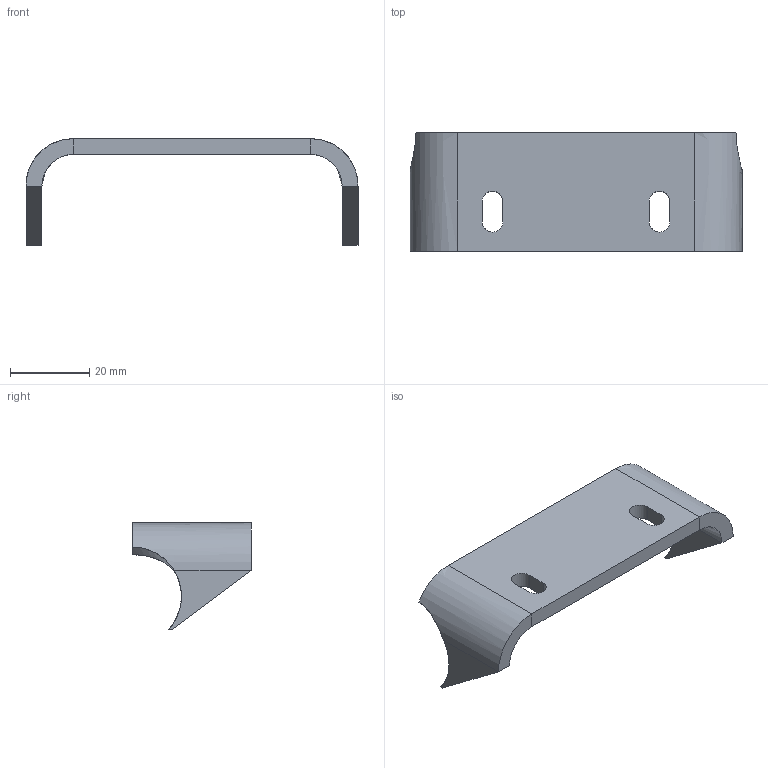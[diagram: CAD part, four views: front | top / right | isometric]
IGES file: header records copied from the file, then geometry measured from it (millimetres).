
Start section: START RECORD GO HERE.
Global section: file name: 20M_SU_14011 (front ARB y bracket).igs; native system: IBM CATIA IGES - CATIA Version 5 Release 19 ; preprocessor: CATIA Version 5 Release 19 ; author: Martin Kawczynski; organization: DESKTOP-UDLM1FC; date: 20200108.230025; units: millimetre
Bounding box: 84 x 30 x 27 mm (x, y, z)
Surface area: 6982.1 mm2 (no closed solid volume)
Topology: 0 solids, 0 shells, 35 faces, 170 edges, 172 vertices
Faces by surface type: plane 20, revolution 8, extrusion 4, bspline 3
